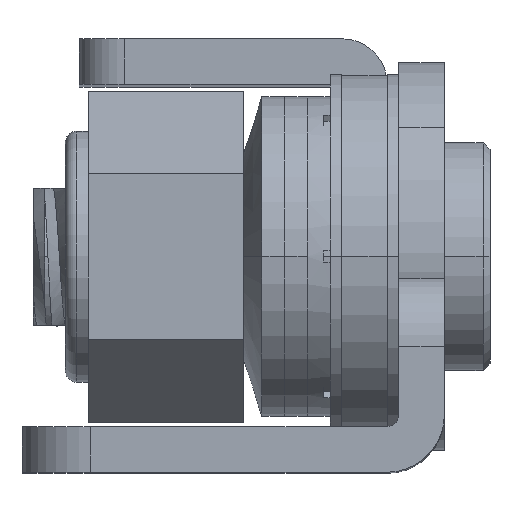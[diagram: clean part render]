
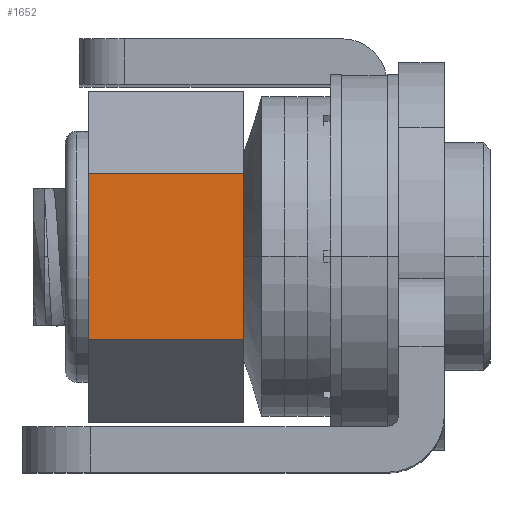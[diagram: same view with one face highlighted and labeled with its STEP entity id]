
A CAD part, top view. The second image highlights one B-rep face of the part: STEP entity #1652.
In plain terms, the highlighted planar face has unit normal (0, 0, 1).
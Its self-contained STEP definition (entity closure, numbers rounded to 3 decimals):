
#268 = VERTEX_POINT ( 'NONE', #3519 ) ;
#443 = CARTESIAN_POINT ( 'NONE',  ( 9.7, 5.875, -26.721 ) ) ;
#569 = LINE ( 'NONE', #3931, #2052 ) ;
#718 = CARTESIAN_POINT ( 'NONE',  ( 2.9, 5.875, -26.721 ) ) ;
#838 = DIRECTION ( 'NONE',  ( 0., 1., 0. ) ) ;
#1509 = FACE_OUTER_BOUND ( 'NONE', #8211, .T. ) ;
#1539 = EDGE_CURVE ( 'NONE', #7064, #2333, #569, .T. ) ;
#1568 = DIRECTION ( 'NONE',  ( 0., 1., 0. ) ) ;
#1652 = ADVANCED_FACE ( 'NONE', ( #1509 ), #6502, .T. ) ;
#2052 = VECTOR ( 'NONE', #3110, 1000. ) ;
#2092 = VERTEX_POINT ( 'NONE', #2886 ) ;
#2105 = DIRECTION ( 'NONE',  ( 0., 1., 0. ) ) ;
#2128 = CARTESIAN_POINT ( 'NONE',  ( 9.7, 5.875, -26.721 ) ) ;
#2333 = VERTEX_POINT ( 'NONE', #10221 ) ;
#2765 = ORIENTED_EDGE ( 'NONE', *, *, #3853, .T. ) ;
#2886 = CARTESIAN_POINT ( 'NONE',  ( 2.9, 13.125, -26.721 ) ) ;
#3110 = DIRECTION ( 'NONE',  ( -1., 0., 0. ) ) ;
#3220 = DIRECTION ( 'NONE',  ( -1., 0., 0. ) ) ;
#3469 = VECTOR ( 'NONE', #3220, 1000. ) ;
#3519 = CARTESIAN_POINT ( 'NONE',  ( 9.7, 13.125, -26.721 ) ) ;
#3570 = EDGE_CURVE ( 'NONE', #7064, #268, #9624, .T. ) ;
#3779 = EDGE_CURVE ( 'NONE', #2333, #2092, #10889, .T. ) ;
#3853 = EDGE_CURVE ( 'NONE', #268, #2092, #5750, .T. ) ;
#3931 = CARTESIAN_POINT ( 'NONE',  ( 9.7, 5.875, -26.721 ) ) ;
#4872 = CARTESIAN_POINT ( 'NONE',  ( 9.7, 13.125, -26.721 ) ) ;
#5682 = DIRECTION ( 'NONE',  ( 0., 0., 1. ) ) ;
#5750 = LINE ( 'NONE', #4872, #3469 ) ;
#5857 = CARTESIAN_POINT ( 'NONE',  ( 9.7, 5.875, -26.721 ) ) ;
#5928 = ORIENTED_EDGE ( 'NONE', *, *, #1539, .F. ) ;
#6502 = PLANE ( 'NONE',  #9248 ) ;
#7064 = VERTEX_POINT ( 'NONE', #2128 ) ;
#7341 = VECTOR ( 'NONE', #838, 1000. ) ;
#8211 = EDGE_LOOP ( 'NONE', ( #2765, #10741, #5928, #9424 ) ) ;
#9248 = AXIS2_PLACEMENT_3D ( 'NONE', #5857, #5682, #1568 ) ;
#9273 = VECTOR ( 'NONE', #2105, 1000. ) ;
#9424 = ORIENTED_EDGE ( 'NONE', *, *, #3570, .T. ) ;
#9624 = LINE ( 'NONE', #443, #9273 ) ;
#10221 = CARTESIAN_POINT ( 'NONE',  ( 2.9, 5.875, -26.721 ) ) ;
#10741 = ORIENTED_EDGE ( 'NONE', *, *, #3779, .F. ) ;
#10889 = LINE ( 'NONE', #718, #7341 ) ;
